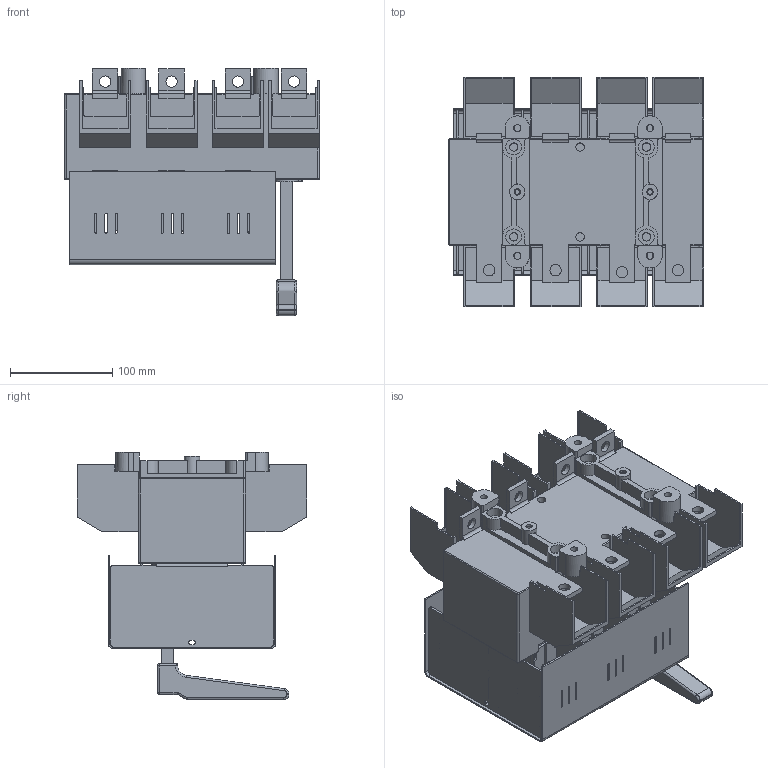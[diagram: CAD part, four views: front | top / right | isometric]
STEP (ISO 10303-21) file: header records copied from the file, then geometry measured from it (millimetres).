
FILE_DESCRIPTION(/* description */ (''),/* implementation_level */ '2;1');
FILE_NAME(/* name */ 'RAB 2 P3 NB-R z oslona zaciskow.stp',/* time_stamp */ '2021-08-19T13:49:25+02:00',/* author */ (''),/* organization */ (''),/* preprocessor_version */ 'ST-DEVELOPER v18.1',/* originating_system */ 'SIEMENS PLM Software NX 1965',/* authorisation */ '');
FILE_SCHEMA (('AUTOMOTIVE_DESIGN { 1 0 10303 214 3 1 1 1 }'));
Length unit declared in the file: millimetre
Products named in the file (1): RAB 2 P3 NB-R z oslona zaciskow
Bounding box: 250 x 225 x 242.3 mm (x, y, z)
Volume: 2645253.2 mm3; surface area: 619883.4 mm2
Topology: 1 solids, 7 shells, 1408 faces, 3923 edges, 2539 vertices
Faces by surface type: plane 961, cylinder 425, bspline 8, torus 8, sphere 6
Full cylindrical faces by diameter (mm): 4.8 x2, 5.2 x18, 6.2 x2, 7 x4, 8.2 x6, 11 x8, 14 x4, 15 x2, 15.5 x4
Entity records: 44989 total; most frequent: CARTESIAN_POINT 8089, ORIENTED_EDGE 7718, DIRECTION 7555, EDGE_CURVE 3859, LINE 2937, VECTOR 2937, VERTEX_POINT 2528, AXIS2_PLACEMENT_3D 2309
